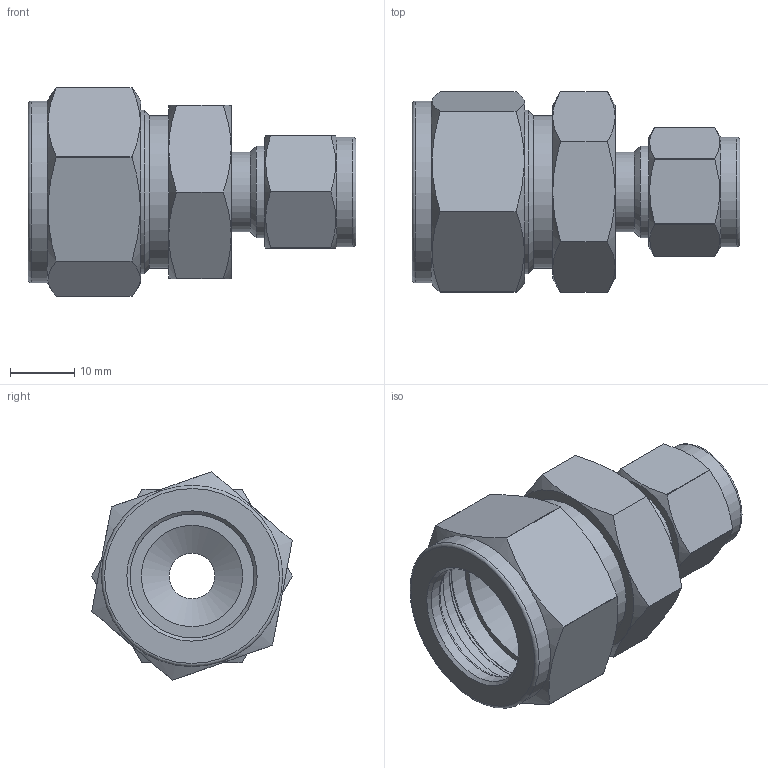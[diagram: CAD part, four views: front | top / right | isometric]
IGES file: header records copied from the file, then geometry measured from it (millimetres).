
Global section: file name: No Iges File Name specified; native system: Autodesk Inventor 2012; preprocessor: AutoDesk Inventor Iges Exporter R2012; author: 硅己绕,,1; organization: 1; date: 20150422.173016; units: millimetre
Bounding box: 51 x 31.18 x 32.44 mm (x, y, z)
Volume: 13312.3 mm3; surface area: 10237.8 mm2
Topology: 3 solids, 3 shells, 99 faces, 214 edges, 130 vertices
Faces by surface type: plane 33, revolution 22, cone 20, cylinder 20, torus 4
Full cylindrical faces by diameter (mm): 12.36 x1, 12.55 x1, 14.28 x1, 17 x1, 23.7 x1, 23.8 x1, 25.4 x1, 28.2 x1
